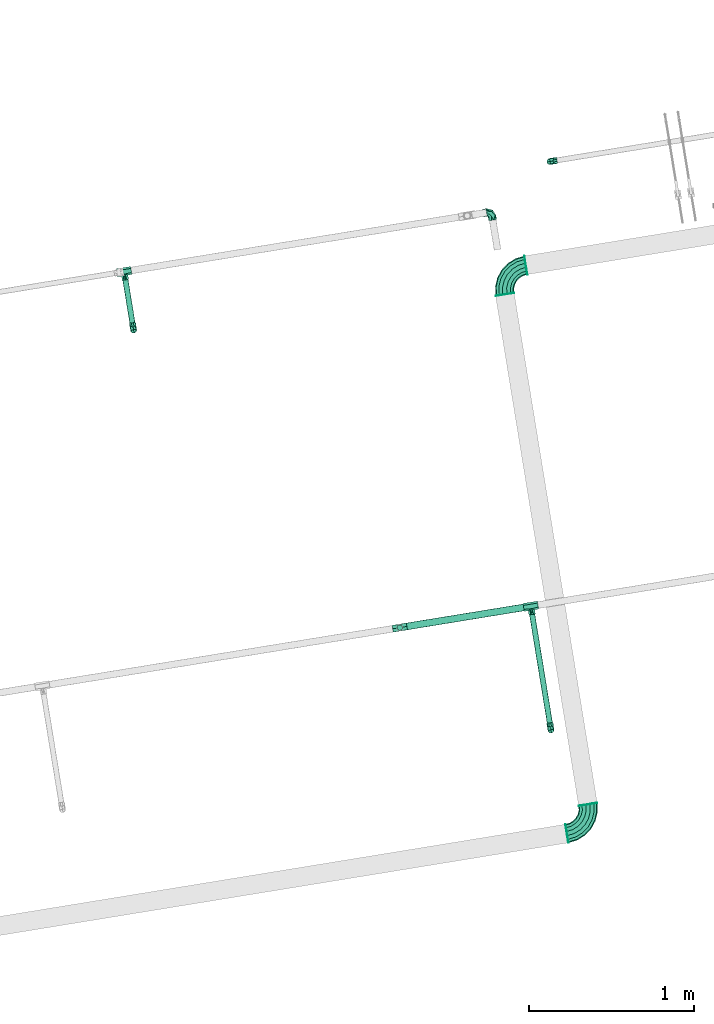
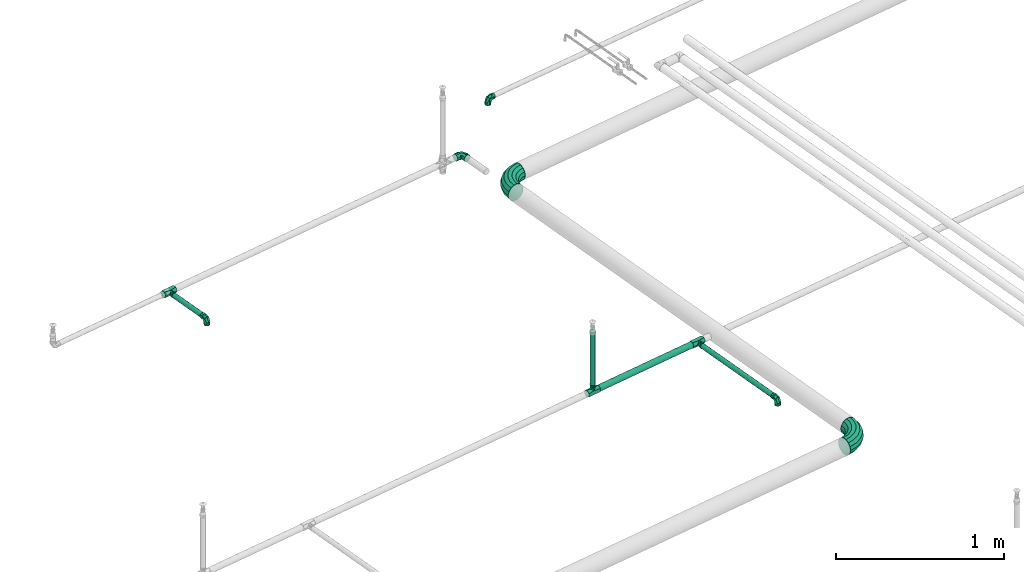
# One storey, part 24 of 46: 13 flow fittings, 4 flow segments.
"""IFC2X3 building model written with IfcOpenShell, lengths in millimetres."""

from ifc_helpers import new_model, entity, si_unit, converted_unit, derived_unit, direction, frame, frame_2d, origin, origin_with_axes, origin_2d_with_axis, place, context, subcontext, project, spatial, circle, extrude, faceted_brep, source, transform, mapped, material, type_object, element, save


model = new_model("IFC2X3")

# Units and contexts
model_context = context("Model", 3, precision=0.01, world=origin(), true_north=direction((6.12323399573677e-17, 1.0)))
plan_context = context("Plan", 3, precision=1e-05, world=origin_with_axes())
body_context = subcontext(model_context, "Body", "Model", "MODEL_VIEW")
ifc_project = project(units=[converted_unit("PLANEANGLEUNIT", "DEGREE", entity("IfcPositiveLengthMeasure", 0.0174532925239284), si_unit("PLANEANGLEUNIT", "RADIAN"), dimensions=[0, 0, 0, 0, 0, 0, 0]), si_unit("AREAUNIT", "SQUARE_METRE"), si_unit("LENGTHUNIT", "METRE", prefix="MILLI"), si_unit("MASSUNIT", "GRAM", prefix="KILO"), si_unit("POWERUNIT", "WATT"), si_unit("PRESSUREUNIT", "PASCAL", prefix="KILO"), si_unit("FORCEUNIT", "NEWTON", prefix="KILO"), si_unit("ELECTRICVOLTAGEUNIT", "VOLT"), si_unit("ELECTRICCURRENTUNIT", "AMPERE"), si_unit("THERMODYNAMICTEMPERATUREUNIT", "DEGREE_CELSIUS"), si_unit("TIMEUNIT", "SECOND"), si_unit("VOLUMEUNIT", "CUBIC_METRE"), derived_unit("LINEARVELOCITYUNIT", [(si_unit("LENGTHUNIT", "METRE"), 1), (si_unit("TIMEUNIT", "SECOND"), -1)]), derived_unit("VOLUMETRICFLOWRATEUNIT", [(si_unit("VOLUMEUNIT", "CUBIC_METRE"), 1), (si_unit("TIMEUNIT", "SECOND"), -1)]), derived_unit("THERMALTRANSMITTANCEUNIT", [(si_unit("POWERUNIT", "WATT"), 1), (si_unit("THERMODYNAMICTEMPERATUREUNIT", "KELVIN"), -1), (si_unit("AREAUNIT", "SQUARE_METRE"), -1)]), derived_unit("SOUNDPRESSUREUNIT", [(si_unit("PRESSUREUNIT", "PASCAL"), 1)])], contexts=[model_context, plan_context])

# Site, building, storey
site_placement = place(None, frame((-3.09682673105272e-06, 1.93776733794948e-05, 0.0), z_axis=(0.0, 0.0, 1.0), x_axis=(-0.160806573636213, 0.986985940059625, 0.0)))
site = spatial("IfcSite", under=ifc_project, at=site_placement, Name="Default", CompositionType="ELEMENT")
building_placement = place(site_placement, frame((0.0, 0.0, 0.0), z_axis=(0.0, 0.0, 1.0), x_axis=(1.0, -2.77555756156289e-17, 0.0)))
building = spatial("IfcBuilding", under=site, at=building_placement, Name="Bygning (endres i Project Information)", CompositionType="ELEMENT")
storey_placement = place(building_placement, frame((0.0, 0.0, 51360.0000000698), z_axis=(0.0, 0.0, 1.0), x_axis=(1.0, -2.77555756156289e-17, 0.0)))
storey = spatial("IfcBuildingStorey", under=building, at=storey_placement, Name="H01-Nivå D+0,36", CompositionType="ELEMENT", Elevation=51360.0000000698)

# Flow fittings
ifc_material_1 = material(Name="3320.001")
pipe_fitting_type_1 = type_object("IfcPipeFittingType", Name="Bend sveist:EN 10253-1 S235 3D ISO", PredefinedType="NOTDEFINED", material=ifc_material_1)
shared_shape_1 = source(origin(), body_context, "Body", "Brep", [
    faceted_brep([(-98.6091776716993, -49.9893123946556, 0.0), (-100.073997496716, -44.5225303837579, 24.7964556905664), (-153.0, -51.4903708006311, 24.7964556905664), (-153.0, -57.1500000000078, 0.0), (-104.178331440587, -29.2049475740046, 44.6816692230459), (-153.0, -35.6324421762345, 44.6816692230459), (-110.109265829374, -7.07039909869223, 55.7171301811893), (-153.0, -12.7170713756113, 55.7171301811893), (-116.692106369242, 17.4970962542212, 55.7171301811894), (-153.0, 12.7170713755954, 55.7171301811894), (-122.62304075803, 39.6316447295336, 44.6816692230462), (-153.0, 35.6324421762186, 44.6816692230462), (-126.7273747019, 54.9492275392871, 24.7964556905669), (-153.0, 51.4903708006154, 24.7964556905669), (-128.192194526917, 60.416009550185, 0.0), (-153.0, 57.1499999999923, 0.0), (-126.7273747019, 54.9492275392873, -24.7964556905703), (-153.0, 51.4903708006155, -24.7964556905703), (-122.62304075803, 39.6316447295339, -44.6816692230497), (-153.0, 35.6324421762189, -44.6816692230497), (-116.692106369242, 17.4970962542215, -55.7171301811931), (-153.0, 12.7170713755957, -55.7171301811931), (-110.109265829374, -7.07039909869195, -55.7171301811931), (-153.0, -12.717071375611, -55.7171301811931), (-104.178331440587, -29.2049475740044, -44.6816692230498), (-153.0, -35.6324421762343, -44.6816692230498), (-100.073997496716, -44.5225303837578, -24.7964556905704), (-153.0, -51.4903708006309, -24.7964556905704), (-47.924999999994, -28.9952386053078, 0.0), (-50.7548145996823, -24.0938559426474, 24.7964556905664), (-58.6837789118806, -10.3604869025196, 44.6816692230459), (-70.1414643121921, 9.48480634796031, 55.7171301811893), (-82.8585356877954, 31.5114200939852, 55.7171301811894), (-94.316221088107, 51.3567133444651, 44.6816692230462), (-102.245185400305, 65.0900823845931, 24.7964556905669), (-105.074999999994, 69.9914650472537, 0.0), (-102.245185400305, 65.0900823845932, -24.7964556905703), (-94.3162210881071, 51.3567133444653, -44.6816692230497), (-82.8585356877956, 31.5114200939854, -55.7171301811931), (-70.1414643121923, 9.48480634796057, -55.7171301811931), (-58.6837789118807, -10.3604869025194, -44.6816692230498), (-50.7548145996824, -24.0938559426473, -24.7964556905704), (-4.40150993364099, 4.40150993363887, 0.0), (-8.40347211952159, 8.40347211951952, 24.7964556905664), (-19.6167209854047, 19.6167209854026, 44.6816692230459), (-35.8203350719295, 35.8203350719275, 55.7171301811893), (-53.8049898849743, 53.8049898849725, 55.7171301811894), (-70.0086039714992, 70.0086039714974, 44.6816692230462), (-81.2218528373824, 81.2218528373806, 24.7964556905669), (-85.2238150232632, 85.2238150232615, 0.0), (-81.2218528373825, 81.2218528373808, -24.7964556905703), (-70.0086039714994, 70.0086039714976, -44.6816692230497), (-53.8049898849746, 53.8049898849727, -55.7171301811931), (-35.8203350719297, 35.8203350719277, -55.7171301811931), (-19.6167209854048, 19.6167209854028, -44.6816692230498), (-8.4034721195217, 8.40347211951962, -24.7964556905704), (28.9952386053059, 47.9249999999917, 0.0), (24.0938559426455, 50.7548145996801, 24.7964556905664), (10.3604869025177, 58.6837789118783, 44.6816692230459), (-9.4848063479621, 70.14146431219, 55.7171301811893), (-31.5114200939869, 82.8585356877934, 55.7171301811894), (-51.3567133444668, 94.3162210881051, 44.6816692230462), (-65.0900823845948, 102.245185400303, 24.7964556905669), (-69.9914650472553, 105.074999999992, 0.0), (-65.0900823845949, 102.245185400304, -24.7964556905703), (-51.356713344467, 94.3162210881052, -44.6816692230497), (-31.5114200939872, 82.8585356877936, -55.7171301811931), (-9.48480634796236, 70.1414643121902, -55.7171301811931), (10.3604869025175, 58.6837789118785, -44.6816692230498), (24.0938559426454, 50.7548145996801, -24.7964556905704), (49.989312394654, 98.6091776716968, 0.0), (44.5225303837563, 100.073997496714, 24.7964556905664), (29.204947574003, 104.178331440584, 44.6816692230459), (7.07039909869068, 110.109265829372, 55.7171301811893), (-17.4970962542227, 116.69210636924, 55.7171301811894), (-39.6316447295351, 122.623040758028, 44.6816692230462), (-54.9492275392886, 126.727374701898, 24.7964556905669), (-60.4160095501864, 128.192194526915, 0.0), (-54.9492275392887, 126.727374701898, -24.7964556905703), (-39.6316447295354, 122.623040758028, -44.6816692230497), (-17.497096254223, 116.69210636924, -55.7171301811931), (7.07039909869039, 110.109265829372, -55.7171301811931), (29.2049475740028, 104.178331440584, -44.6816692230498), (44.5225303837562, 100.073997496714, -24.7964556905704), (57.1500000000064, 153.0, 0.0), (51.4903708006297, 153.0, 24.7964556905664), (35.6324421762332, 153.0, 44.6816692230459), (12.71707137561, 153.0, 55.7171301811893), (-12.7170713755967, 153.0, 55.7171301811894), (-35.63244217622, 153.0, 44.6816692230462), (-51.4903708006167, 153.0, 24.7964556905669), (-57.1499999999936, 153.0, 0.0), (-51.4903708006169, 153.0, -24.7964556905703), (-35.6324421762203, 153.0, -44.6816692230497), (-12.717071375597, 153.0, -55.7171301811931), (12.7170713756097, 153.0, -55.7171301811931), (35.6324421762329, 153.0, -44.6816692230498), (51.4903708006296, 153.0, -24.7964556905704)], [[[0, 1, 2, 3]], [[1, 4, 5, 2]], [[4, 6, 7, 5]], [[6, 8, 9, 7]], [[8, 10, 11, 9]], [[10, 12, 13, 11]], [[12, 14, 15, 13]], [[14, 16, 17, 15]], [[16, 18, 19, 17]], [[18, 20, 21, 19]], [[20, 22, 23, 21]], [[22, 24, 25, 23]], [[24, 26, 27, 25]], [[26, 0, 3, 27]], [[28, 29, 1, 0]], [[29, 30, 4, 1]], [[30, 31, 6, 4]], [[31, 32, 8, 6]], [[32, 33, 10, 8]], [[33, 34, 12, 10]], [[34, 35, 14, 12]], [[35, 36, 16, 14]], [[36, 37, 18, 16]], [[37, 38, 20, 18]], [[38, 39, 22, 20]], [[39, 40, 24, 22]], [[40, 41, 26, 24]], [[41, 28, 0, 26]], [[42, 43, 29, 28]], [[43, 44, 30, 29]], [[44, 45, 31, 30]], [[45, 46, 32, 31]], [[46, 47, 33, 32]], [[47, 48, 34, 33]], [[48, 49, 35, 34]], [[49, 50, 36, 35]], [[50, 51, 37, 36]], [[51, 52, 38, 37]], [[52, 53, 39, 38]], [[53, 54, 40, 39]], [[54, 55, 41, 40]], [[55, 42, 28, 41]], [[56, 57, 43, 42]], [[57, 58, 44, 43]], [[58, 59, 45, 44]], [[59, 60, 46, 45]], [[60, 61, 47, 46]], [[61, 62, 48, 47]], [[62, 63, 49, 48]], [[63, 64, 50, 49]], [[64, 65, 51, 50]], [[65, 66, 52, 51]], [[66, 67, 53, 52]], [[67, 68, 54, 53]], [[68, 69, 55, 54]], [[69, 56, 42, 55]], [[70, 71, 57, 56]], [[71, 72, 58, 57]], [[72, 73, 59, 58]], [[73, 74, 60, 59]], [[74, 75, 61, 60]], [[75, 76, 62, 61]], [[76, 77, 63, 62]], [[77, 78, 64, 63]], [[78, 79, 65, 64]], [[79, 80, 66, 65]], [[80, 81, 67, 66]], [[81, 82, 68, 67]], [[82, 83, 69, 68]], [[83, 70, 56, 69]], [[84, 85, 71, 70]], [[85, 86, 72, 71]], [[86, 87, 73, 72]], [[87, 88, 74, 73]], [[88, 89, 75, 74]], [[89, 90, 76, 75]], [[90, 91, 77, 76]], [[91, 92, 78, 77]], [[92, 93, 79, 78]], [[93, 94, 80, 79]], [[94, 95, 81, 80]], [[95, 96, 82, 81]], [[96, 97, 83, 82]], [[97, 84, 70, 83]], [[3, 2, 5, 7, 9, 11, 13, 15, 17, 19, 21, 23, 25, 27]], [[97, 96, 95, 94, 93, 92, 91, 90, 89, 88, 87, 86, 85, 84]]]),
])
for number, where, z_axis, x_axis in (
    (1, (1008333.45605167, -352127.211474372, 3299.95000040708), (0.0, 0.0, 1.0), (2.77555756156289e-17, 1.0, 0.0)),
    (2, (1004893.45605167, -352127.211474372, 3299.95000040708), (0.0, 0.0, 1.0), (-2.77555756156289e-17, -1.0, 0.0)),
):
    element("IfcFlowFitting", number, at=place(storey_placement, frame(where, z_axis=z_axis, x_axis=x_axis)), inside=storey, type_object=pipe_fitting_type_1, material=ifc_material_1, Name="Bend sveist:EN 10253-1 S235 3D ISO", ObjectType="Bend sveist:EN 10253-1 S235 3D ISO", context=body_context, shape_type="MappedRepresentation", body=[
        mapped(shared_shape_1, transform((0.0, 0.0, 0.0), scale=1.0)),
    ])
ifc_material_2 = material(Name="<Unnamed>")
pipe_fitting_type_2 = type_object("IfcPipeFittingType", Name="Sveis:Sveis", PredefinedType="NOTDEFINED", material=ifc_material_2)
shared_shape_2 = source(origin(), body_context, "Body", "SweptSolid", [
    extrude(circle(Radius=57.15, at=frame_2d((-2.60051383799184e-15, -9.23283724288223e-14), x_axis=(1.0, 0.0))), origin(), (0.0, 0.0, 1.0), 2.0),
])
for number, where, z_axis, x_axis in (
    (3, (1008333.45605167, -352280.211474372, 3299.95000040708), (-2.77555756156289e-17, -1.0, 0.0), (1.0, -2.77555756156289e-17, 0.0)),
    (4, (1008180.45605167, -352127.211474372, 3299.95000040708), (-1.0, 2.77555756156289e-17, 0.0), (0.0, 0.0, 1.0)),
    (5, (1004893.45605167, -351974.211474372, 3299.95000040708), (2.77555756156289e-17, 1.0, 0.0), (-1.0, 2.77555756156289e-17, 0.0)),
    (6, (1005046.45605167, -352127.211474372, 3299.95000040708), (1.0, -2.77555756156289e-17, 0.0), (0.0, 0.0, 1.0)),
):
    element("IfcFlowFitting", number, at=place(storey_placement, frame(where, z_axis=z_axis, x_axis=x_axis)), inside=storey, type_object=pipe_fitting_type_2, material=ifc_material_2, Name="Sveis:Sveis", ObjectType="Sveis:Sveis", context=body_context, shape_type="MappedRepresentation", body=[
        mapped(shared_shape_2, transform((0.0, 0.0, 0.0), scale=1.0)),
    ])
pipe_fitting_type_3 = type_object("IfcPipeFittingType", Name="RS_53_PIF_UN_Tee-Reduced-EN10241_MC_gen:RS_53_PIF_UN_Tee-Reduced-EN10241_MC_gen", PredefinedType="NOTDEFINED", material=ifc_material_1)
shared_shape_3 = source(origin(), body_context, "Body", "Brep", [
    faceted_brep([(44.0, 24.4999999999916, 0.0), (44.0, 18.3749999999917, 10.6088111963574), (44.0, 12.2499999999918, 21.2176223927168), (44.0, 0.0, 21.2176223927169), (44.0, -12.2500000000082, 21.217622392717), (44.0, -18.3750000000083, 10.6088111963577), (44.0, -24.5000000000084, 0.0), (44.0, -21.6281924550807, -4.97411657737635), (44.0, -18.3750000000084, -10.6088111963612), (44.0, -12.2500000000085, -21.2176223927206), (44.0, 0.0, -21.2176223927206), (44.0, 12.2499999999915, -21.2176223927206), (44.0, 18.3749999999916, -10.6088111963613), (-44.0, -12.2500000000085, -21.2176223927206), (-44.0, -18.3750000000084, -10.6088111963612), (-44.0, -24.5000000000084, 0.0), (-44.0, -21.6281923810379, 4.97411670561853), (-44.0, -18.3750000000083, 10.6088111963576), (-44.0, -12.2500000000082, 21.217622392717), (-44.0, 0.0, 21.2176223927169), (-44.0, 12.2499999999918, 21.2176223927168), (-44.0, 18.7563847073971, 9.94823350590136), (-44.0, 24.4999999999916, 0.0), (-44.0, 18.3749999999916, -10.6088111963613), (-44.0, 12.2499999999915, -21.2176223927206), (-44.0, 0.0, -21.2176223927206), (-8.07289668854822, -19.7195683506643, 9.70917342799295), (3.60420662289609, -14.9391367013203, 19.4183468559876), (15.7135516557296, -22.1097841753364, 4.85458671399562), (-19.7499999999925, -24.5000000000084, 0.0), (11.6771033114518, -19.7195683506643, 9.70917342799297), (19.7500000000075, -24.5000000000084, 0.0), (-15.715142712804, -22.1101683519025, -4.85429113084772), (-3.61057085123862, -14.9406734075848, -19.4171645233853), (-11.6802854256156, -19.7203367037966, -9.70858226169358), (8.06971457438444, -19.7203367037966, -9.70858226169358), (9.87500000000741, -51.0, -17.1040017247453), (14.8125000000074, -51.0, -8.55200086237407), (19.7500000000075, -51.0, 0.0), (14.8125000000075, -51.0, 8.55200086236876), (9.87500000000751, -51.0, 17.1040017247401), (0.0, -51.0, 17.1040017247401), (-9.87499999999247, -51.0, 17.1040017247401), (-14.8124999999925, -51.0, 8.55200086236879), (-19.7499999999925, -51.0, 0.0), (-14.8124999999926, -51.0, -8.55200086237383), (-9.87499999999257, -51.0, -17.1040017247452), (0.0, -51.0, -17.1040017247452)], [[[0, 1, 2, 3, 4, 5, 6, 7, 8, 9, 10, 11, 12]], [[13, 14, 15, 16, 17, 18, 19, 20, 21, 22, 23, 24, 25]], [[1, 0, 22, 21, 20, 2]], [[2, 20, 19, 3]], [[26, 17, 16]], [[18, 27, 19]], [[28, 6, 5]], [[29, 16, 15]], [[5, 27, 30, 28]], [[5, 4, 27]], [[27, 17, 26]], [[17, 27, 18]], [[26, 16, 29]], [[6, 28, 31]], [[19, 27, 3]], [[4, 3, 27]], [[32, 15, 14]], [[14, 33, 34, 32]], [[31, 7, 6]], [[35, 8, 7]], [[8, 33, 9]], [[33, 8, 35]], [[15, 32, 29]], [[24, 23, 22, 0, 12, 11]], [[25, 24, 11, 10]], [[14, 13, 33]], [[13, 25, 33]], [[35, 7, 31]], [[10, 33, 25]], [[10, 9, 33]], [[36, 37, 38, 39, 40, 41, 42, 43, 44, 45, 46, 47]], [[29, 45, 44]], [[34, 46, 45]], [[35, 36, 47]], [[33, 46, 34]], [[37, 36, 35]], [[45, 29, 32, 34]], [[31, 37, 35]], [[37, 31, 38]], [[47, 46, 33]], [[35, 47, 33]], [[31, 39, 38]], [[30, 40, 39]], [[26, 42, 41]], [[27, 40, 30]], [[43, 42, 26]], [[39, 31, 28, 30]], [[29, 43, 26]], [[43, 29, 44]], [[41, 40, 27]], [[26, 41, 27]]]),
])
for number, where, z_axis, x_axis in (
    (7, (1008686.77221849, -349871.327563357, 3300.0), (6.24433694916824e-22, 2.24975948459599e-05, 0.999999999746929), (0.0, -0.999999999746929, 2.24975948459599e-05)),
    (8, (1006288.36764383, -351978.631006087, 3299.95696755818), (3.96926294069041e-22, 1.43007768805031e-05, 0.999999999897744), (0.0, -0.999999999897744, 1.43007768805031e-05)),
    (9, (1006288.36764382, -351173.710240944, 3299.95464876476), (1.0, 1.35041749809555e-28, 5.29395592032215e-23), (0.0, -0.999999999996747, 2.55086653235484e-06)),
):
    element("IfcFlowFitting", number, at=place(storey_placement, frame(where, z_axis=z_axis, x_axis=x_axis)), inside=storey, type_object=pipe_fitting_type_3, material=ifc_material_1, Name="RS_53_PIF_UN_Tee-Reduced-EN10241_MC_gen:RS_53_PIF_UN_Tee-Reduced-EN10241_MC_gen", ObjectType="RS_53_PIF_UN_Tee-Reduced-EN10241_MC_gen:RS_53_PIF_UN_Tee-Reduced-EN10241_MC_gen", context=body_context, shape_type="MappedRepresentation", body=[
        mapped(shared_shape_3, transform((0.0, 0.0, 0.0), scale=1.0)),
    ])
pipe_fitting_type_4 = type_object("IfcPipeFittingType", Name="RS_53_PIF_UN_Elbow-EN10241_NOR:RS_53_PIF_UN_Elbow-EN10241_NOR", PredefinedType="NOTDEFINED", material=ifc_material_1)
shared_shape_4 = source(origin(), body_context, "Body", "Brep", [
    faceted_brep([(-43.0, 5.11167614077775, 19.0770350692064), (-43.0, 17.1040017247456, 9.87499999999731), (-43.0, 19.7500000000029, 0.0), (-43.0, 17.1040017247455, -9.87500000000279), (-43.0, 5.11167614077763, -19.0770350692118), (-43.0, -5.11167614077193, -19.0770350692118), (-43.0, -17.1040017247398, -9.87500000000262), (-43.0, -19.7499999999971, 0.0), (-43.0, -17.1040017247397, 9.87499999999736), (-43.0, -5.11167614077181, 19.0770350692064), (-21.7499999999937, -19.7499999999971, 0.0), (-21.7499999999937, -15.1293510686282, -12.6950870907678), (-21.7499999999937, -3.42946974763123, -19.4499675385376), (-21.7499999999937, 15.1294711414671, -12.694943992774), (-21.7499999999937, 19.7500000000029, 0.0), (-21.7499999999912, 5.85000069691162, -16.072455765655), (-21.7499999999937, 15.1294711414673, 12.6949439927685), (-21.7499999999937, 3.42965371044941, 19.4499351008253), (-21.7499999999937, -15.1293510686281, 12.6950870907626), (-5.41688095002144, -10.3200693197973, 0.0), (0.655979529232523, -2.00253561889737, 16.4678355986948), (-11.0449015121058, 9.84579831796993, 18.897380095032), (-18.5589216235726, 21.7499999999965, 6.75491881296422), (-15.1293490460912, 21.7499999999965, 12.6950895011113), (-20.3357864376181, 20.3357864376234, 0.0), (-19.7499999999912, 21.7499999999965, 0.0), (14.190054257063, 1.0, 0.0), (12.6950125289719, 21.7499999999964, 15.1294136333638), (6.75482439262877, 21.7499999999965, 18.5589559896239), (17.2232575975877, 12.3200689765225, 0.0), (-6.754824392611, 21.7499999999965, 18.558955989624), (19.7500000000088, 21.7499999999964, 0.0), (18.5589216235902, 21.7499999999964, 6.75491881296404), (0.0, 21.7499999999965, 19.7499999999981), (-18.5589216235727, 21.7499999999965, -6.75491881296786), (-10.1618436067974, 10.1618877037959, -19.0082217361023), (1.2569166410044, -0.890945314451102, -16.7093898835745), (0.0, 21.7499999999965, -19.7500000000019), (-6.75482439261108, 21.7499999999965, -18.5589559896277), (-12.6950125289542, 21.7499999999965, -15.1294136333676), (18.5589216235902, 21.7499999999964, -6.75491881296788), (15.1293490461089, 21.7499999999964, -12.6950895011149), (6.75482439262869, 21.7499999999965, -18.5589559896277), (-9.8749999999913, 43.0, 17.1040017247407), (0.0, 43.0, 19.7499999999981), (9.8750000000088, 43.0, 17.1040017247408), (19.0770350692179, 43.0, 5.11167614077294), (19.0770350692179, 43.0, -5.11167614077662), (9.87500000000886, 43.0, -17.1040017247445), (0.0, 43.0, -19.7500000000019), (-9.87499999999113, 43.0, -17.1040017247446), (-19.0770350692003, 43.0, -5.11167614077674), (-19.0770350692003, 43.0, 5.11167614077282)], [[[0, 1, 2, 3, 4, 5, 6, 7, 8, 9]], [[7, 6, 10]], [[6, 11, 10]], [[11, 6, 5]], [[11, 5, 12]], [[13, 4, 3]], [[14, 3, 2]], [[4, 13, 15, 12]], [[13, 3, 14]], [[4, 12, 5]], [[2, 1, 14]], [[1, 16, 14]], [[16, 1, 0]], [[16, 0, 17]], [[18, 9, 8]], [[10, 8, 7]], [[9, 18, 17]], [[18, 8, 10]], [[9, 17, 0]], [[18, 19, 20]], [[20, 21, 17]], [[22, 16, 23]], [[16, 17, 21]], [[24, 14, 22]], [[22, 25, 24]], [[14, 16, 22]], [[20, 26, 27]], [[27, 28, 20]], [[26, 29, 27]], [[23, 21, 30]], [[31, 32, 29]], [[18, 20, 17]], [[26, 20, 19]], [[21, 23, 16]], [[18, 10, 19]], [[33, 21, 20]], [[33, 30, 21]], [[27, 29, 32]], [[33, 20, 28]], [[14, 24, 34]], [[25, 34, 24]], [[12, 35, 36]], [[14, 34, 13]], [[36, 19, 11]], [[37, 35, 38]], [[38, 35, 39]], [[10, 11, 19]], [[34, 39, 13]], [[37, 36, 35]], [[36, 11, 12]], [[39, 35, 13]], [[40, 31, 29]], [[41, 36, 42]], [[36, 37, 42]], [[41, 40, 29]], [[26, 36, 41]], [[29, 26, 41]], [[19, 36, 26]], [[13, 35, 12, 15]], [[43, 44, 45, 46, 47, 48, 49, 50, 51, 52]], [[49, 37, 38]], [[50, 38, 39]], [[49, 38, 50]], [[51, 50, 39]], [[51, 34, 25]], [[34, 51, 39]], [[52, 25, 22]], [[22, 23, 52]], [[30, 43, 23]], [[52, 23, 43]], [[44, 43, 30]], [[33, 44, 30]], [[25, 52, 51]], [[44, 33, 28]], [[45, 28, 27]], [[44, 28, 45]], [[46, 45, 27]], [[46, 32, 31]], [[32, 46, 27]], [[47, 31, 40]], [[40, 41, 47]], [[42, 48, 41]], [[47, 41, 48]], [[49, 48, 42]], [[37, 49, 42]], [[31, 47, 46]]]),
])
flow_fitting_1_placement = place(storey_placement, frame((1008930.46730193, -352527.11552664, 3400.0), z_axis=(1.0, -2.77555756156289e-17, 0.0), x_axis=(0.0, 0.0, 1.0)))
element("IfcFlowFitting", 10, at=flow_fitting_1_placement, inside=storey, type_object=pipe_fitting_type_4, material=ifc_material_1, Name="RS_53_PIF_UN_Elbow-EN10241_NOR:RS_53_PIF_UN_Elbow-EN10241_NOR", ObjectType="RS_53_PIF_UN_Elbow-EN10241_NOR:RS_53_PIF_UN_Elbow-EN10241_NOR", context=body_context, shape_type="MappedRepresentation", body=[
    mapped(shared_shape_4, transform((0.0, 0.0, 0.0), scale=1.0)),
])
pipe_fitting_type_5 = type_object("IfcPipeFittingType", Name="RS_53_PIF_UN_Elbow-EN10241_NOR:RS_53_PIF_UN_Elbow-EN10241_NOR", PredefinedType="NOTDEFINED", material=ifc_material_1)
flow_fitting_2_placement = place(storey_placement, frame((1008329.26172123, -349871.327563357, 3300.00209763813), z_axis=(2.77555756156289e-17, 1.0, 0.0), x_axis=(0.0, 0.0, 1.0)))
element("IfcFlowFitting", 11, at=flow_fitting_2_placement, inside=storey, type_object=pipe_fitting_type_5, material=ifc_material_1, Name="RS_53_PIF_UN_Elbow-EN10241_NOR:RS_53_PIF_UN_Elbow-EN10241_NOR", ObjectType="RS_53_PIF_UN_Elbow-EN10241_NOR:RS_53_PIF_UN_Elbow-EN10241_NOR", context=body_context, shape_type="MappedRepresentation", body=[
    mapped(shared_shape_4, transform((0.0, 0.0, 0.0), scale=1.0)),
])
pipe_fitting_type_6 = type_object("IfcPipeFittingType", Name="RS_53_PIF_UN_Elbow-EN10241_NOR:RS_53_PIF_UN_Elbow-EN10241_NOR", PredefinedType="NOTDEFINED", material=ifc_material_1)
flow_fitting_3_placement = place(storey_placement, frame((1005529.26172123, -351978.631006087, 3300.00146234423), z_axis=(2.77555756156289e-17, 1.0, 0.0), x_axis=(0.0, 0.0, 1.0)))
element("IfcFlowFitting", 12, at=flow_fitting_3_placement, inside=storey, type_object=pipe_fitting_type_6, material=ifc_material_1, Name="RS_53_PIF_UN_Elbow-EN10241_NOR:RS_53_PIF_UN_Elbow-EN10241_NOR", ObjectType="RS_53_PIF_UN_Elbow-EN10241_NOR:RS_53_PIF_UN_Elbow-EN10241_NOR", context=body_context, shape_type="MappedRepresentation", body=[
    mapped(shared_shape_4, transform((0.0, 0.0, 0.0), scale=1.0)),
])
pipe_fitting_type_7 = type_object("IfcPipeFittingType", Name="RS_53_PIF_UN_Elbow-EN10241_NOR:RS_53_PIF_UN_Elbow-EN10241_NOR", PredefinedType="NOTDEFINED", material=ifc_material_1)
shared_shape_5 = source(origin(), body_context, "Body", "Brep", [
    faceted_brep([(-51.0, -6.3410666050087, 23.6651827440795), (-51.0, 6.34106660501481, 23.6651827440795), (-51.0, 21.2176223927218, 12.2499999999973), (-51.0, 24.500000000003, 0.0), (-51.0, 21.2176223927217, -12.2500000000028), (-51.0, 6.34106660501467, -23.6651827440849), (-51.0, -6.34106660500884, -23.6651827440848), (-51.0, -21.2176223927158, -12.2500000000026), (-51.0, -24.499999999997, 0.0), (-51.0, -21.2176223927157, 12.2499999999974), (-26.4999999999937, -24.499999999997, 0.0), (-26.4999999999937, -18.7681172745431, -15.748262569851), (-26.4999999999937, -4.25446743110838, -24.127774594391), (-26.4999999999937, 18.7679893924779, -15.7484149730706), (-26.4999999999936, 24.500000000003, 0.0), (-26.4999999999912, 7.25676098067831, -19.93809478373), (-26.4999999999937, 18.767989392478, 15.748414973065), (-26.4999999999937, 4.25427150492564, 24.1278091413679), (-26.4999999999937, -18.768117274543, 15.7482625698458), (9.56244584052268, -9.56244584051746, 0.0), (1.44520749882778, -2.06499718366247, 20.4706468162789), (-4.4422497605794, -15.3633806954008, 0.0), (-13.5214833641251, 12.0473079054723, 23.4561571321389), (-18.7679735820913, 26.4999999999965, 15.7484338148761), (-8.37919860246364, 26.4999999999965, 23.022576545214), (-25.0857864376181, 25.0857864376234, 0.0), (-23.0224385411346, 26.4999999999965, 8.37957777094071), (-24.4999999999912, 26.4999999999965, 0.0), (15.3633803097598, 4.44224882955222, 0.0), (19.9316901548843, 15.4711244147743, 0.0), (15.7481247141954, 26.4999999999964, 18.7682329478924), (8.37919860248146, 26.4999999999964, 23.0225765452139), (24.5000000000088, 26.4999999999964, 0.0), (23.0224385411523, 26.4999999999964, 8.37957777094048), (0.0, 26.4999999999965, 24.4999999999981), (-23.0224385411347, 26.4999999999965, -8.37957777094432), (1.80976526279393, -1.36091655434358, -20.6272450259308), (-15.7481247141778, 26.4999999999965, -18.7682329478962), (-8.37919860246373, 26.4999999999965, -23.0225765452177), (0.0, 26.4999999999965, -24.5000000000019), (18.767973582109, 26.4999999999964, -15.7484338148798), (23.0224385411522, 26.4999999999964, -8.37957777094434), (8.37919860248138, 26.4999999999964, -23.0225765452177), (0.0, 51.0, -24.5000000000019), (-12.2499999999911, 51.0, -21.2176223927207), (-23.6651827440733, 51.0, -6.34106660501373), (-23.6651827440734, 51.0, 6.34106660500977), (-12.2499999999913, 51.0, 21.2176223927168), (0.0, 51.0, 24.4999999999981), (12.2500000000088, 51.0, 21.2176223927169), (23.665182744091, 51.0, 6.34106660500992), (23.665182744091, 51.0, -6.34106660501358), (12.2500000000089, 51.0, -21.2176223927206)], [[[0, 1, 2, 3, 4, 5, 6, 7, 8, 9]], [[8, 7, 10]], [[7, 11, 10]], [[11, 7, 6]], [[11, 6, 12]], [[13, 5, 4]], [[14, 4, 3]], [[5, 13, 15, 12]], [[13, 4, 14]], [[5, 12, 6]], [[3, 2, 14]], [[2, 16, 14]], [[16, 2, 1]], [[16, 1, 17]], [[18, 0, 9]], [[10, 9, 8]], [[0, 18, 17]], [[18, 9, 10]], [[0, 17, 1]], [[19, 20, 21]], [[16, 17, 22]], [[21, 20, 18]], [[18, 10, 21]], [[23, 22, 24]], [[25, 14, 26]], [[26, 27, 25]], [[16, 26, 14]], [[19, 28, 20]], [[28, 29, 30]], [[30, 20, 28]], [[20, 22, 17]], [[30, 31, 20]], [[29, 32, 33]], [[22, 34, 24]], [[16, 23, 26]], [[30, 29, 33]], [[23, 16, 22]], [[34, 22, 20]], [[18, 20, 17]], [[31, 34, 20]], [[35, 13, 14]], [[21, 10, 11]], [[35, 14, 25]], [[36, 21, 11]], [[36, 11, 12]], [[13, 37, 15]], [[35, 25, 27]], [[36, 12, 15]], [[36, 15, 38]], [[38, 39, 36]], [[29, 28, 40]], [[41, 32, 29]], [[13, 35, 37]], [[40, 41, 29]], [[36, 42, 40]], [[19, 36, 28]], [[37, 38, 15]], [[21, 36, 19]], [[28, 36, 40]], [[42, 36, 39]], [[43, 44, 45, 46, 47, 48, 49, 50, 51, 52]], [[43, 39, 38]], [[44, 38, 37]], [[43, 38, 44]], [[45, 44, 37]], [[45, 35, 27]], [[35, 45, 37]], [[46, 27, 26]], [[26, 23, 46]], [[24, 47, 23]], [[46, 23, 47]], [[48, 47, 24]], [[34, 48, 24]], [[27, 46, 45]], [[48, 34, 31]], [[49, 31, 30]], [[48, 31, 49]], [[50, 49, 30]], [[50, 33, 32]], [[33, 50, 30]], [[51, 32, 41]], [[41, 40, 51]], [[42, 52, 40]], [[51, 40, 52]], [[43, 52, 42]], [[39, 43, 42]], [[32, 51, 50]]]),
])
flow_fitting_4_placement = place(storey_placement, frame((1008686.77221849, -352126.942889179, 3300.0), z_axis=(0.0, 0.0, 1.0), x_axis=(1.0, -2.77555756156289e-17, 0.0)))
element("IfcFlowFitting", 13, at=flow_fitting_4_placement, inside=storey, type_object=pipe_fitting_type_7, material=ifc_material_1, Name="RS_53_PIF_UN_Elbow-EN10241_NOR:RS_53_PIF_UN_Elbow-EN10241_NOR", ObjectType="RS_53_PIF_UN_Elbow-EN10241_NOR:RS_53_PIF_UN_Elbow-EN10241_NOR", context=body_context, shape_type="MappedRepresentation", body=[
    mapped(shared_shape_5, transform((0.0, 0.0, 0.0), scale=1.0)),
])

# Flow segments
pipe_segment_type = type_object("IfcPipeSegmentType", Name="Pipe Types:Stålrør sveist og gjenget", PredefinedType="NOTDEFINED", material=ifc_material_1)
flow_segment_1_placement = place(storey_placement, frame((0.0, 0.0, 0.0), z_axis=(0.0, 0.0, 1.0), x_axis=(1.0, -2.77555756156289e-17, 0.0)))
element("IfcFlowSegment", 14, at=flow_segment_1_placement, inside=storey, type_object=pipe_segment_type, Name="Pipe Types:Stålrør sveist og gjenget", ObjectType="Pipe Types:Stålrør sveist og gjenget", context=body_context, shape_type="SweptSolid", body=[
    extrude(circle(Radius=16.8500004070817, at=origin_2d_with_axis()), frame((1008353.16172114, -349871.327563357, 3300.0), z_axis=(1.0, 0.0, 0.0), x_axis=(0.0, 1.0, 0.0)), (0.0, 0.0, 1.0), 301.710497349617),
])
flow_segment_2_placement = place(storey_placement, frame((0.0, 0.0, 0.0), z_axis=(0.0, 0.0, 1.0), x_axis=(1.0, -2.77555756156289e-17, 0.0)))
element("IfcFlowSegment", 15, at=flow_segment_2_placement, inside=storey, type_object=pipe_segment_type, Name="Pipe Types:Stålrør sveist og gjenget", ObjectType="Pipe Types:Stålrør sveist og gjenget", context=body_context, shape_type="SweptSolid", body=[
    extrude(circle(Radius=16.8500004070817, at=origin_2d_with_axis()), frame((1006256.46764383, -351978.631006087, 3299.95696755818), z_axis=(-1.0, 0.0, 6.11859510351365e-05), x_axis=(0.0, 1.0, 0.0)), (0.0, 0.0, 1.0), 703.305941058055),
])
flow_segment_3_placement = place(storey_placement, frame((0.0, 0.0, 0.0), z_axis=(0.0, 0.0, 1.0), x_axis=(1.0, -2.77555756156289e-17, 0.0)))
element("IfcFlowSegment", 16, at=flow_segment_3_placement, inside=storey, type_object=pipe_segment_type, Name="Pipe Types:Stålrør sveist og gjenget", ObjectType="Pipe Types:Stålrør sveist og gjenget", context=body_context, shape_type="SweptSolid", body=[
    extrude(circle(Radius=16.8500004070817, at=origin_2d_with_axis()), frame((1006288.36764382, -351173.710159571, 3331.85464876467), z_axis=(0.0, -2.0094117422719e-07, 1.0), x_axis=(-1.0, 0.0, 0.0)), (0.0, 0.0, 1.0), 404.957476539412),
])
flow_segment_4_placement = place(storey_placement, frame((0.0, 0.0, 0.0), z_axis=(0.0, 0.0, 1.0), x_axis=(1.0, -2.77555756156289e-17, 0.0)))
element("IfcFlowSegment", 17, at=flow_segment_4_placement, inside=storey, type_object=pipe_segment_type, Name="Pipe Types:Stålrør sveist og gjenget", ObjectType="Pipe Types:Stålrør sveist og gjenget", context=body_context, shape_type="SweptSolid", body=[
    extrude(circle(Radius=21.2000007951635, at=frame_2d((1.38606992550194e-10, 0.0), x_axis=(1.0, 0.0))), frame((1006288.36764383, -351956.03100609, 3299.95664436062), z_axis=(0.0, 1.0, 0.0), x_axis=(1.0, 0.0, 0.0)), (0.0, 0.0, 1.0), 759.720765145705),
])

save(model, "model.ifc")
